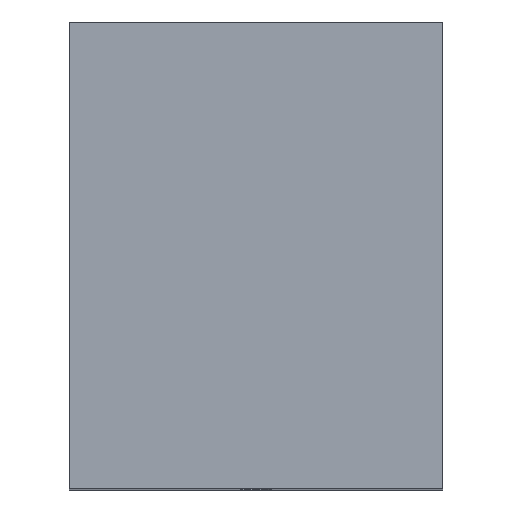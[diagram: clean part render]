
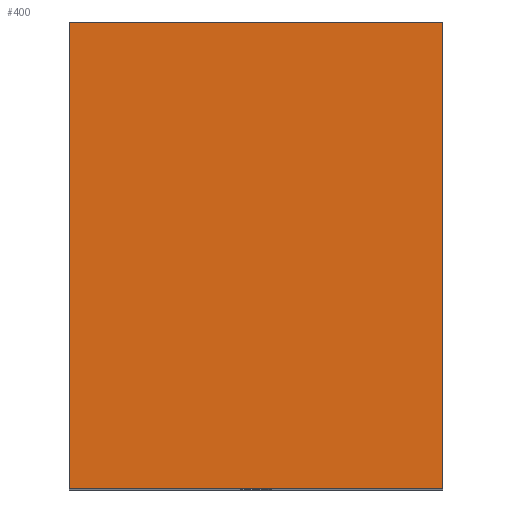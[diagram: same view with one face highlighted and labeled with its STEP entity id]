
A CAD part, top view. The second image highlights one B-rep face of the part: STEP entity #400.
In plain terms, the highlighted planar face has unit normal (0, 0, 1).
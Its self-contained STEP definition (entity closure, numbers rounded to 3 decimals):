
#10=CARTESIAN_POINT('',(0.,0.,0.));
#20=DIRECTION('',(0.,0.,1.));
#30=DIRECTION('',(1.,0.,0.));
#40=AXIS2_PLACEMENT_3D('',#10,#20,#30);
#50=PLANE('',#40);
#60=CARTESIAN_POINT('',(84.548,119.192,0.));
#70=DIRECTION('',(-1.,0.,0.));
#80=VECTOR('',#70,1.);
#90=LINE('',#60,#80);
#100=CARTESIAN_POINT('',(84.548,119.192,0.));
#110=VERTEX_POINT('',#100);
#120=CARTESIAN_POINT('',(4.548,119.192,0.));
#130=VERTEX_POINT('',#120);
#140=EDGE_CURVE('',#110,#130,#90,.T.);
#150=ORIENTED_EDGE('',*,*,#140,.T.);
#160=CARTESIAN_POINT('',(84.548,19.192,0.));
#170=DIRECTION('',(0.,1.,0.));
#180=VECTOR('',#170,1.);
#190=LINE('',#160,#180);
#200=CARTESIAN_POINT('',(84.548,19.192,0.));
#210=VERTEX_POINT('',#200);
#220=EDGE_CURVE('',#210,#110,#190,.T.);
#230=ORIENTED_EDGE('',*,*,#220,.T.);
#240=CARTESIAN_POINT('',(4.548,19.192,0.));
#250=DIRECTION('',(1.,0.,0.));
#260=VECTOR('',#250,1.);
#270=LINE('',#240,#260);
#280=CARTESIAN_POINT('',(4.548,19.192,0.));
#290=VERTEX_POINT('',#280);
#300=EDGE_CURVE('',#290,#210,#270,.T.);
#310=ORIENTED_EDGE('',*,*,#300,.T.);
#320=CARTESIAN_POINT('',(4.548,79.192,0.));
#330=DIRECTION('',(0.,1.,0.));
#340=VECTOR('',#330,1.);
#350=LINE('',#320,#340);
#360=EDGE_CURVE('',#290,#130,#350,.T.);
#370=ORIENTED_EDGE('',*,*,#360,.F.);
#380=EDGE_LOOP('',(#370,#310,#230,#150));
#390=FACE_OUTER_BOUND('',#380,.T.);
#400=ADVANCED_FACE('',(#390),#50,.T.);
